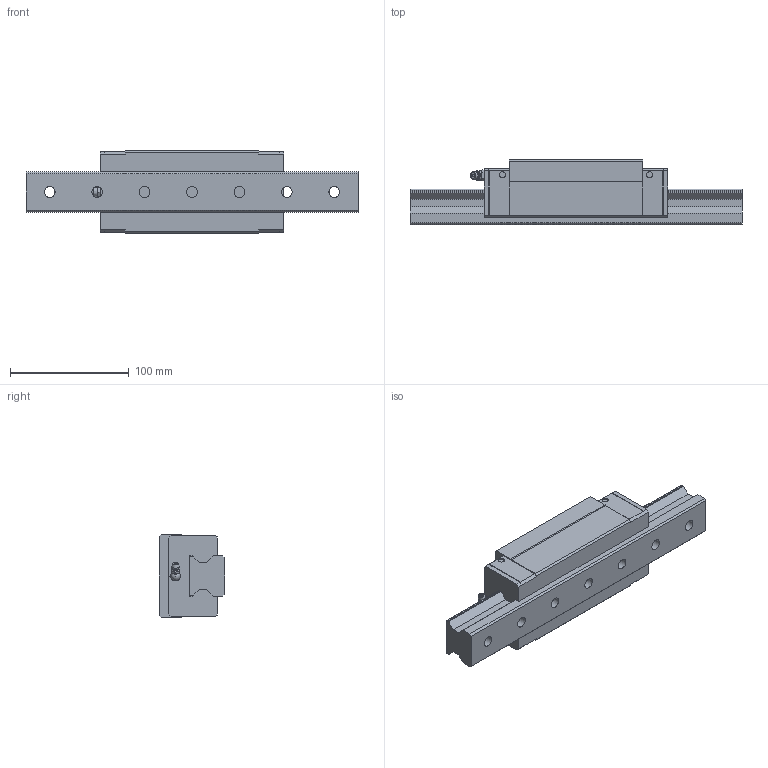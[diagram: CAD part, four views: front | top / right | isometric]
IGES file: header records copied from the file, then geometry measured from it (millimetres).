
Start section: Data from Parasolid IGES Translator 26.0.171, Copyright(c) 2006 Siemens PLM Software. All Rights Reserved.
Global section: file name: SRG35LR1SS-280LH_G20_0_B-M6F_62-5_0_0_0_1.igs; native system: By Siemens PLM Incorporated; preprocessor: XPlus GENERIC/IGES 26.0.171; author: Noname; organization: Noname; date: 20240523.102215; units: millimetre
Bounding box: 280 x 55 x 70 mm (x, y, z)
Surface area: 98425.3 mm2 (no closed solid volume)
Topology: 0 solids, 0 shells, 204 faces, 1062 edges, 987 vertices
Faces by surface type: extrusion 137, revolution 67
